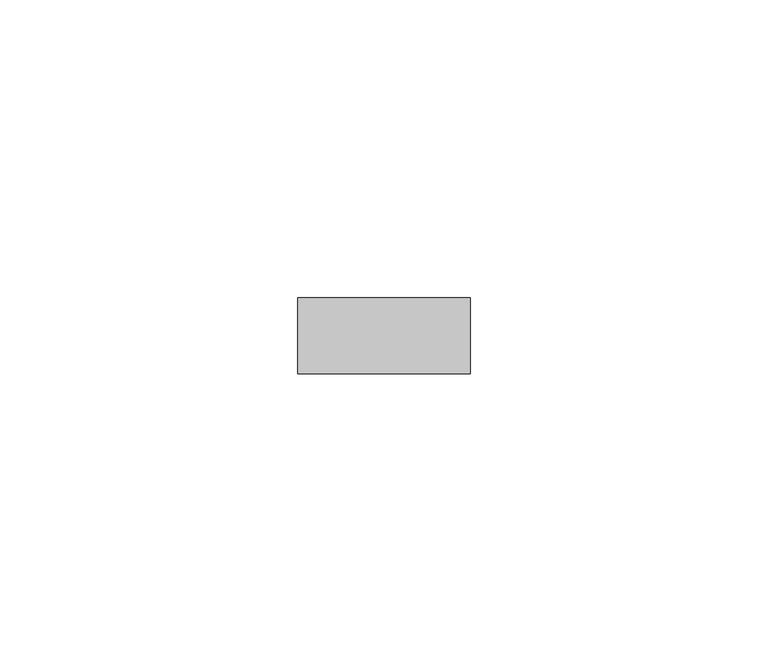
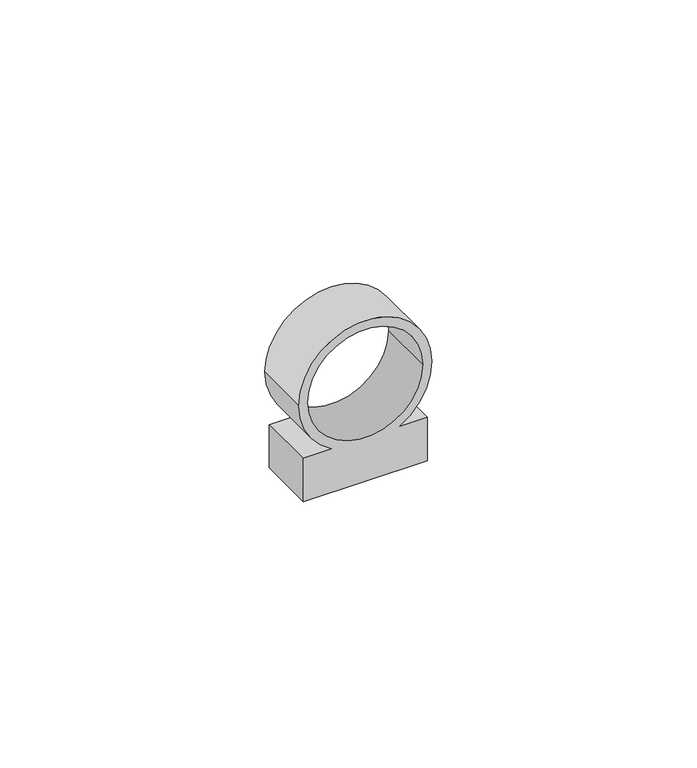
"""IFC4 building model written with IfcOpenShell, lengths in millimetres: cable carrier fitting geometry."""

import ifcopenshell
import ifcopenshell.guid

model = None  # the IFC model being written
_history = None  # IfcOwnerHistory: only IFC2X3 demands one
_inside = {}  # id of a spatial element -> (the spatial element, [elements in it])
_under = {}  # id of a project, library or spatial element -> (it, [spatial elements below it])
_declared = {}  # id of a project -> (the project, [libraries it declares])
_typed = {}  # id of a type object -> (the type object, [elements of that type])
_made_of = {}  # id of a material, layer set ... -> (it, [elements and type objects made of it])


def new_model(schema):
    """Start an empty IFC model of exactly this schema.

    Asked for "IFC4X3", IfcOpenShell would pick the latest addendum, in which some entities
    have other attributes; the version numbers below select the first issue.
    IFC2X3 requires an IfcOwnerHistory on every rooted entity: one is made here for all.
    """
    global model, _history
    if schema == "IFC4X3":
        model = ifcopenshell.file(schema_version=(4, 3, 0, 0))
    else:
        model = ifcopenshell.file(schema=schema)
    _inside.clear()
    _under.clear()
    _declared.clear()
    _typed.clear()
    _made_of.clear()
    _history = None
    if model.schema == "IFC2X3":
        org = make("IfcOrganization", Name="unknown")
        user = make(
            "IfcPersonAndOrganization",
            ThePerson=make("IfcPerson", FamilyName="unknown"),
            TheOrganization=org,
        )
        app = make(
            "IfcApplication",
            ApplicationDeveloper=org,
            Version="unknown",
            ApplicationFullName="unknown",
            ApplicationIdentifier="unknown",
        )
        _history = make(
            "IfcOwnerHistory",
            OwningUser=user,
            OwningApplication=app,
            ChangeAction="ADDED",
            CreationDate=0,
        )
    return model


def make(cls, **values):
    """One entity of the class cls with the attributes given. An attribute that is None is left unset."""
    return model.create_entity(
        cls, **{name: value for name, value in values.items() if value is not None}
    )


def rooted(cls, **values):
    """An entity with a GlobalId (a new one), such as an element, a storey or a relation."""
    return make(cls, GlobalId=ifcopenshell.guid.new(), OwnerHistory=_history, **values)


def si_unit(unit_type, name, prefix=None):
    """IfcSIUnit, for example si_unit("LENGTHUNIT", "METRE", prefix="MILLI")."""
    return make("IfcSIUnit", UnitType=unit_type, Prefix=prefix, Name=name)


def assignment(units):
    """IfcUnitAssignment: the units of a project."""
    return None if units is None else make("IfcUnitAssignment", Units=units)


def point(xyz):
    """IfcCartesianPoint."""
    return None if xyz is None else make("IfcCartesianPoint", Coordinates=xyz)


def direction(xyz):
    """IfcDirection."""
    return None if xyz is None else make("IfcDirection", DirectionRatios=xyz)


def frame(location, z_axis=None, x_axis=None):
    """IfcAxis2Placement3D, a coordinate frame: its origin and axes. An axis left out is left unset."""
    return make(
        "IfcAxis2Placement3D",
        Location=point(location),
        Axis=direction(z_axis),
        RefDirection=direction(x_axis),
    )


def frame_2d(location, x_axis=None):
    """IfcAxis2Placement2D, a coordinate frame in the plane: its origin and x axis."""
    return make(
        "IfcAxis2Placement2D", Location=point(location), RefDirection=direction(x_axis)
    )


def origin():
    """The frame at (0, 0, 0) with its axes left unset."""
    return frame((0.0, 0.0, 0.0))


def place(relative_to, where):
    """IfcLocalPlacement: puts the frame where relative to a parent placement (None: the world)."""
    return make(
        "IfcLocalPlacement", PlacementRelTo=relative_to, RelativePlacement=where
    )


def context(
    kind, dimensions, precision=None, world=None, true_north=None, identifier=None
):
    """IfcGeometricRepresentationContext, for example the 3D "Model" context."""
    return make(
        "IfcGeometricRepresentationContext",
        ContextIdentifier=identifier,
        ContextType=kind,
        CoordinateSpaceDimension=dimensions,
        Precision=precision,
        WorldCoordinateSystem=world,
        TrueNorth=true_north,
    )


def project(units=None, contexts=None):
    """IfcProject with its units and contexts."""
    return rooted(
        "IfcProject",
        Name="project",
        RepresentationContexts=contexts,
        UnitsInContext=assignment(units),
    )


def spatial(cls, under=None, at=None, **own):
    """A site, building, storey or space (cls), placed at a placement, below another one or the project."""
    s = rooted(cls, ObjectPlacement=at, **own)
    if under is not None:
        _under.setdefault(under.id(), (under, []))[1].append(s)
    return s


def polyline(points):
    """IfcPolyline through the points."""
    return make("IfcPolyline", Points=[point(p) for p in points])


def circle_curve(where, radius):
    """IfcCircle in the frame where."""
    return make("IfcCircle", Position=where, Radius=radius)


def trimmed(basis, trim1, trim2, sense, master):
    """IfcTrimmedCurve: the piece of a basis curve between two trims."""
    return make(
        "IfcTrimmedCurve",
        BasisCurve=basis,
        Trim1=trim1,
        Trim2=trim2,
        SenseAgreement=sense,
        MasterRepresentation=master,
    )


def segment(curve, same_sense, transition):
    """IfcCompositeCurveSegment."""
    return make(
        "IfcCompositeCurveSegment",
        Transition=transition,
        SameSense=same_sense,
        ParentCurve=curve,
    )


def composite_curve(segments, self_intersect=None):
    """IfcCompositeCurve: segments joined end to end."""
    return make("IfcCompositeCurve", Segments=segments, SelfIntersect=self_intersect)


def outline(outer, holes=None, kind="AREA"):
    """IfcArbitraryClosedProfileDef: a profile drawn as a closed curve; with holes, ...WithVoids."""
    if holes is None:
        return make("IfcArbitraryClosedProfileDef", ProfileType=kind, OuterCurve=outer)
    return make(
        "IfcArbitraryProfileDefWithVoids",
        ProfileType=kind,
        OuterCurve=outer,
        InnerCurves=holes,
    )


def extrude(swept, where, along, depth):
    """IfcExtrudedAreaSolid: the profile swept, set in the frame where, extruded along a direction by depth."""
    return make(
        "IfcExtrudedAreaSolid",
        SweptArea=swept,
        Position=where,
        ExtrudedDirection=direction(along),
        Depth=depth,
    )


def shape(context_of_items, identifier, shape_type, items):
    """IfcShapeRepresentation: the items that make up one representation, for example the "Body"."""
    return make(
        "IfcShapeRepresentation",
        ContextOfItems=context_of_items,
        RepresentationIdentifier=identifier,
        RepresentationType=shape_type,
        Items=items,
    )


def source(mapping_origin, context_of_items, identifier, shape_type, items):
    """IfcRepresentationMap: a shape defined once, which mapped items show again and again."""
    return make(
        "IfcRepresentationMap",
        MappingOrigin=mapping_origin,
        MappedRepresentation=shape(context_of_items, identifier, shape_type, items),
    )


def transform(
    local_origin,
    x_axis=None,
    y_axis=None,
    z_axis=None,
    scale=None,
    scale2=None,
    scale3=None,
    uniform=True,
):
    """IfcCartesianTransformationOperator3D, or its non-uniform kind. x_axis, y_axis, z_axis: its Axis1, 2, 3."""
    if uniform:
        return make(
            "IfcCartesianTransformationOperator3D",
            Axis1=direction(x_axis),
            Axis2=direction(y_axis),
            LocalOrigin=point(local_origin),
            Scale=scale,
            Axis3=direction(z_axis),
        )
    return make(
        "IfcCartesianTransformationOperator3DnonUniform",
        Axis1=direction(x_axis),
        Axis2=direction(y_axis),
        LocalOrigin=point(local_origin),
        Scale=scale,
        Axis3=direction(z_axis),
        Scale2=scale2,
        Scale3=scale3,
    )


def mapped(mapping_source, mapping_target):
    """IfcMappedItem: shows the shape of a source again, moved by a transform."""
    return make(
        "IfcMappedItem", MappingSource=mapping_source, MappingTarget=mapping_target
    )


def made_of(thing, what):
    """Note that an element or type object is made of a material, layer set ...; save() writes the relation."""
    if what is not None:
        _made_of.setdefault(what.id(), (what, []))[1].append(thing)
    return thing


def element(
    cls,
    number,
    at=None,
    inside=None,
    cuts=None,
    type_object=None,
    material=None,
    context=None,
    identifier="Body",
    shape_type=None,
    held_by="IfcProductDefinitionShape",
    body=None,
    shapes=None,
    **own,
):
    """One element of the class cls, such as IfcWall. Its Tag is "e" and its number.

    at: its placement. inside: the storey or other place that contains it. cuts: it is an
    opening in that element (IfcRelVoidsElement). A single representation is given by context,
    identifier, shape_type and body (its items); several are given by shapes. held_by: the class
    of the entity that holds the representations. save() writes the other relations.
    """
    e = rooted(cls, Tag="e%d" % number, ObjectPlacement=at, **own)
    if body is not None:
        shapes = [shape(context, identifier, shape_type, body)]
    if shapes is not None:
        e.Representation = make(held_by, Representations=shapes)
    if inside is not None:
        _inside.setdefault(inside.id(), (inside, []))[1].append(e)
    if cuts is not None:
        rooted(
            "IfcRelVoidsElement", RelatingBuildingElement=cuts, RelatedOpeningElement=e
        )
    if type_object is not None:
        _typed.setdefault(type_object.id(), (type_object, []))[1].append(e)
    return made_of(e, material)


def aggregate(whole, parts):
    """IfcRelAggregates: a whole, such as a stair, and the parts it consists of."""
    return rooted("IfcRelAggregates", RelatingObject=whole, RelatedObjects=parts)


def save(model, path):
    """Write the relations noted so far, then the file.

    IfcRelAggregates (storeys below a building ...), IfcRelContainedInSpatialStructure (elements
    in a storey), IfcRelDefinesByType, IfcRelAssociatesMaterial and IfcRelDeclares: one each for
    every whole, place, type object, material and project.
    """
    for whole, parts in _under.values():
        aggregate(whole, parts)
    for where, things in _inside.values():
        rooted(
            "IfcRelContainedInSpatialStructure",
            RelatedElements=things,
            RelatingStructure=where,
        )
    for kind, things in _typed.values():
        rooted("IfcRelDefinesByType", RelatedObjects=things, RelatingType=kind)
    for what, things in _made_of.values():
        rooted("IfcRelAssociatesMaterial", RelatedObjects=things, RelatingMaterial=what)
    for by, libraries in _declared.values():
        rooted("IfcRelDeclares", RelatingContext=by, RelatedDefinitions=libraries)
    model.write(path)


def cable_carrier_fitting_8bd09c2a(model_context):
    return source(origin(), model_context, "Body", "SweptSolid", [
        extrude(outline(composite_curve([segment(trimmed(circle_curve(frame_2d((22.5, 0.0)), 14.5), [point((22.5, 14.5))], [point((22.5, -14.5))], False, "CARTESIAN"), True, "CONTINUOUS"), segment(trimmed(circle_curve(frame_2d((22.5, 0.0)), 14.5), [point((22.5, -14.5))], [point((10.0, -7.3484692))], False, "CARTESIAN"), True, "CONTINUOUS"), segment(polyline([(10.0, -7.3484692), (10.0, -13.5), (0.0, -13.5), (0.0, 13.5), (10.0, 13.5), (10.0, 7.3484692)]), True, "CONTINUOUS"), segment(trimmed(circle_curve(frame_2d((22.5, 0.0)), 14.5), [point((10.0, 7.3484692))], [point((22.5, 14.5))], False, "CARTESIAN"), True, "CONTINUOUS")], self_intersect=False), holes=[composite_curve([segment(trimmed(circle_curve(frame_2d((22.5, 0.0)), 12.5), [point((22.5, -12.5))], [point((22.5, 12.5))], True, "CARTESIAN"), True, "CONTINUOUS"), segment(trimmed(circle_curve(frame_2d((22.5, 0.0)), 12.5), [point((22.5, 12.5))], [point((22.5, -12.5))], True, "CARTESIAN"), True, "CONTINUOUS")], self_intersect=False)]), frame((0.0, -6.4, 0.0), z_axis=(0.0, 1.0, 0.0), x_axis=(0.0, 0.0, 1.0)), (0.0, 0.0, 1.0), 12.8),
    ])


if __name__ == "__main__":
    model = new_model("IFC4")
    model_context = context("Model", 3, world=origin())
    ifc_project = project(units=[si_unit("LENGTHUNIT", "METRE", prefix="MILLI")], contexts=[model_context])
    site = spatial("IfcSite", under=ifc_project)
    building = spatial("IfcBuilding", under=site)
    placement = place(None, origin())
    cable_carrier_fitting_shape = cable_carrier_fitting_8bd09c2a(model_context)
    element("IfcCableCarrierFitting", 1, at=placement, inside=building, context=model_context, shape_type="MappedRepresentation", body=[
        mapped(cable_carrier_fitting_shape, transform((0.0, 0.0, 0.0), x_axis=(1.0, 0.0, 0.0), y_axis=(0.0, 1.0, 0.0), z_axis=(0.0, 0.0, 1.0))),
    ])
    save(model, "model.ifc")
